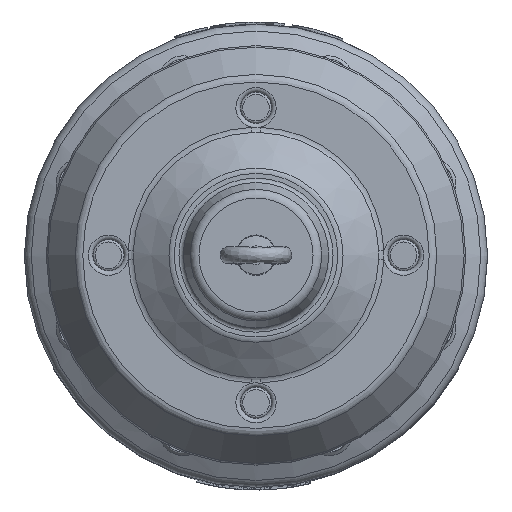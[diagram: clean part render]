
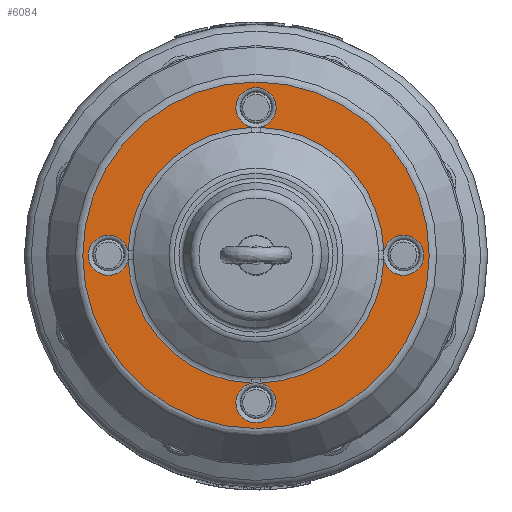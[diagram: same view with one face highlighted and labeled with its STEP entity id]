
A CAD part, top view. The second image highlights one B-rep face of the part: STEP entity #6084.
In plain terms, the highlighted planar face has unit normal (0, 0, 1).
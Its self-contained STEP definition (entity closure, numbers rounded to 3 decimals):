
#6084=ADVANCED_FACE('',(#25646,#25648),#25650,.T.);
#25646=FACE_BOUND('',#25647,.T.);
#25647=EDGE_LOOP('',(#81392));
#25648=FACE_BOUND('',#25649,.T.);
#25649=EDGE_LOOP('',(#81393,#81394,#81395,#81396,#81397,#81398,#81399,#81400,#81401,
#81402,#81403,#81404));
#25650=PLANE('',#25651);
#25651=AXIS2_PLACEMENT_3D('',#25652,#25653,#25654);
#25652=CARTESIAN_POINT('',(0.,0.,49.147));
#25653=DIRECTION('',(0.,0.,1.));
#25654=DIRECTION('',(-1.,0.,0.));
#81392=ORIENTED_EDGE('',*,*,#87205,.F.);
#81393=ORIENTED_EDGE('',*,*,#87200,.T.);
#81394=ORIENTED_EDGE('',*,*,#87206,.F.);
#81395=ORIENTED_EDGE('',*,*,#87207,.F.);
#81396=ORIENTED_EDGE('',*,*,#87196,.T.);
#81397=ORIENTED_EDGE('',*,*,#87208,.F.);
#81398=ORIENTED_EDGE('',*,*,#87209,.F.);
#81399=ORIENTED_EDGE('',*,*,#87192,.T.);
#81400=ORIENTED_EDGE('',*,*,#87210,.F.);
#81401=ORIENTED_EDGE('',*,*,#87211,.F.);
#81402=ORIENTED_EDGE('',*,*,#87188,.T.);
#81403=ORIENTED_EDGE('',*,*,#87203,.F.);
#81404=ORIENTED_EDGE('',*,*,#87202,.F.);
#87188=EDGE_CURVE('',#93478,#93473,#93479,.T.);
#87192=EDGE_CURVE('',#93484,#93481,#93485,.T.);
#87196=EDGE_CURVE('',#93490,#93487,#93491,.T.);
#87200=EDGE_CURVE('',#93474,#93493,#93496,.T.);
#87202=EDGE_CURVE('',#93474,#93499,#93500,.F.);
#87203=EDGE_CURVE('',#93499,#93473,#93501,.F.);
#87205=EDGE_CURVE('',#93504,#93504,#93505,.T.);
#87206=EDGE_CURVE('',#93506,#93493,#93507,.F.);
#87207=EDGE_CURVE('',#93490,#93506,#93508,.F.);
#87208=EDGE_CURVE('',#93509,#93487,#93510,.F.);
#87209=EDGE_CURVE('',#93484,#93509,#93511,.F.);
#87210=EDGE_CURVE('',#93512,#93481,#93513,.F.);
#87211=EDGE_CURVE('',#93478,#93512,#93514,.F.);
#93473=VERTEX_POINT('',#129298);
#93474=VERTEX_POINT('',#129299);
#93478=VERTEX_POINT('',#129324);
#93479=CIRCLE('',#129325,111.07);
#93481=VERTEX_POINT('',#129333);
#93484=VERTEX_POINT('',#129351);
#93485=CIRCLE('',#129352,111.07);
#93487=VERTEX_POINT('',#129360);
#93490=VERTEX_POINT('',#129378);
#93491=CIRCLE('',#129379,111.07);
#93493=VERTEX_POINT('',#129387);
#93496=CIRCLE('',#129405,111.07);
#93499=VERTEX_POINT('',#129414);
#93500=CIRCLE('',#129415,17.472);
#93501=CIRCLE('',#129419,17.472);
#93504=VERTEX_POINT('',#129428);
#93505=CIRCLE('',#129429,150.305);
#93506=VERTEX_POINT('',#129433);
#93507=CIRCLE('',#129434,17.472);
#93508=CIRCLE('',#129438,17.472);
#93509=VERTEX_POINT('',#129442);
#93510=CIRCLE('',#129443,17.472);
#93511=CIRCLE('',#129447,17.472);
#93512=VERTEX_POINT('',#129451);
#93513=CIRCLE('',#129452,17.472);
#93514=CIRCLE('',#129456,17.472);
#129298=CARTESIAN_POINT('',(-110.997,-4.022,49.147));
#129299=CARTESIAN_POINT('',(-110.997,4.022,49.147));
#129324=CARTESIAN_POINT('',(-4.022,-110.997,49.147));
#129325=AXIS2_PLACEMENT_3D('',#129326,#129327,#129328);
#129326=CARTESIAN_POINT('',(0.,0.,49.147));
#129327=DIRECTION('',(0.,0.,-1.));
#129328=DIRECTION('',(-0.036,-0.999,0.));
#129333=CARTESIAN_POINT('',(4.022,-110.997,49.147));
#129351=CARTESIAN_POINT('',(110.997,-4.022,49.147));
#129352=AXIS2_PLACEMENT_3D('',#129353,#129354,#129355);
#129353=CARTESIAN_POINT('',(0.,0.,49.147));
#129354=DIRECTION('',(0.,0.,-1.));
#129355=DIRECTION('',(0.999,-0.036,0.));
#129360=CARTESIAN_POINT('',(110.997,4.022,49.147));
#129378=CARTESIAN_POINT('',(4.022,110.997,49.147));
#129379=AXIS2_PLACEMENT_3D('',#129380,#129381,#129382);
#129380=CARTESIAN_POINT('',(0.,0.,49.147));
#129381=DIRECTION('',(0.,0.,-1.));
#129382=DIRECTION('',(0.036,0.999,0.));
#129387=CARTESIAN_POINT('',(-4.022,110.997,49.147));
#129405=AXIS2_PLACEMENT_3D('',#129406,#129407,#129408);
#129406=CARTESIAN_POINT('',(0.,0.,49.147));
#129407=DIRECTION('',(0.,0.,-1.));
#129408=DIRECTION('',(-0.999,0.036,0.));
#129414=CARTESIAN_POINT('',(-145.472,0.,49.147));
#129415=AXIS2_PLACEMENT_3D('',#129416,#129417,#129418);
#129416=CARTESIAN_POINT('',(-128.,0.,49.147));
#129417=DIRECTION('',(0.,0.,-1.));
#129418=DIRECTION('',(-1.,0.,0.));
#129419=AXIS2_PLACEMENT_3D('',#129420,#129421,#129422);
#129420=CARTESIAN_POINT('',(-128.,0.,49.147));
#129421=DIRECTION('',(0.,0.,-1.));
#129422=DIRECTION('',(0.973,-0.23,0.));
#129428=CARTESIAN_POINT('',(-150.305,0.,49.147));
#129429=AXIS2_PLACEMENT_3D('',#129430,#129431,#129432);
#129430=CARTESIAN_POINT('',(0.,0.,49.147));
#129431=DIRECTION('',(0.,0.,-1.));
#129432=DIRECTION('',(-1.,0.,0.));
#129433=CARTESIAN_POINT('',(0.,145.472,49.147));
#129434=AXIS2_PLACEMENT_3D('',#129435,#129436,#129437);
#129435=CARTESIAN_POINT('',(0.,128.,49.147));
#129436=DIRECTION('',(0.,0.,-1.));
#129437=DIRECTION('',(-0.23,-0.973,0.));
#129438=AXIS2_PLACEMENT_3D('',#129439,#129440,#129441);
#129439=CARTESIAN_POINT('',(0.,128.,49.147));
#129440=DIRECTION('',(0.,0.,-1.));
#129441=DIRECTION('',(0.,1.,0.));
#129442=CARTESIAN_POINT('',(145.472,0.,49.147));
#129443=AXIS2_PLACEMENT_3D('',#129444,#129445,#129446);
#129444=CARTESIAN_POINT('',(128.,0.,49.147));
#129445=DIRECTION('',(0.,0.,-1.));
#129446=DIRECTION('',(-0.973,0.23,0.));
#129447=AXIS2_PLACEMENT_3D('',#129448,#129449,#129450);
#129448=CARTESIAN_POINT('',(128.,0.,49.147));
#129449=DIRECTION('',(0.,0.,-1.));
#129450=DIRECTION('',(1.,0.,0.));
#129451=CARTESIAN_POINT('',(0.,-145.472,49.147));
#129452=AXIS2_PLACEMENT_3D('',#129453,#129454,#129455);
#129453=CARTESIAN_POINT('',(0.,-128.,49.147));
#129454=DIRECTION('',(0.,0.,-1.));
#129455=DIRECTION('',(0.23,0.973,0.));
#129456=AXIS2_PLACEMENT_3D('',#129457,#129458,#129459);
#129457=CARTESIAN_POINT('',(0.,-128.,49.147));
#129458=DIRECTION('',(0.,0.,-1.));
#129459=DIRECTION('',(0.,-1.,0.));
